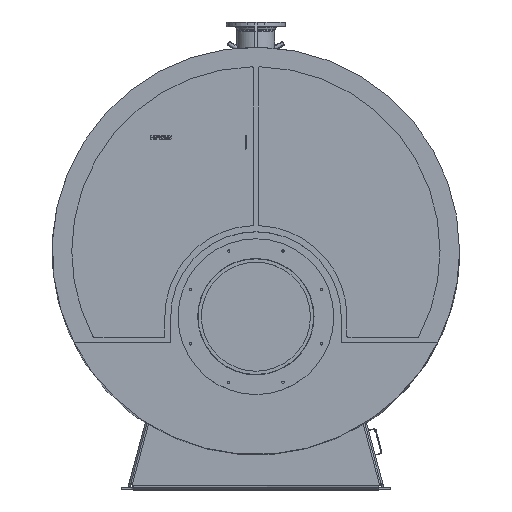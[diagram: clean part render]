
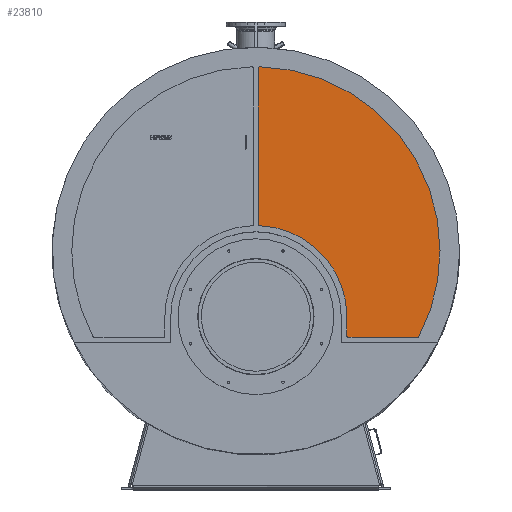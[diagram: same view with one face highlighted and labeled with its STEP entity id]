
A CAD part, top view. The second image highlights one B-rep face of the part: STEP entity #23810.
In plain terms, the highlighted planar face has unit normal (0, 0, 1).
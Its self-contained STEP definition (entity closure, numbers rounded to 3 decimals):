
#23563=CARTESIAN_POINT('',(15.,1057.792,313.));
#23564=VERTEX_POINT('',#23563);
#23565=CARTESIAN_POINT('',(15.,151.585,313.));
#23566=VERTEX_POINT('',#23565);
#23567=CARTESIAN_POINT('',(15.,1057.792,313.));
#23568=DIRECTION('',(-0.,-1.,0.));
#23569=VECTOR('',#23568,906.206);
#23570=LINE('',#23567,#23569);
#23571=EDGE_CURVE('',#23564,#23566,#23570,.T.);
#23594=CARTESIAN_POINT('',(20.763,145.59,313.));
#23595=VERTEX_POINT('',#23594);
#23596=CARTESIAN_POINT('',(526.,-380.,313.));
#23597=VERTEX_POINT('',#23596);
#23598=CARTESIAN_POINT('',(0.,-380.,313.));
#23599=DIRECTION('',(0.,0.,-1.));
#23600=DIRECTION('',(1.,0.,0.));
#23601=AXIS2_PLACEMENT_3D('',#23598,#23599,#23600);
#23602=CIRCLE('',#23601,526.);
#23603=EDGE_CURVE('',#23595,#23597,#23602,.T.);
#23627=CARTESIAN_POINT('',(526.,-493.,313.));
#23628=VERTEX_POINT('',#23627);
#23635=CARTESIAN_POINT('',(526.,-380.,313.));
#23636=DIRECTION('',(0.,-1.,0.));
#23637=VECTOR('',#23636,113.);
#23638=LINE('',#23635,#23637);
#23639=EDGE_CURVE('',#23597,#23628,#23638,.T.);
#23651=CARTESIAN_POINT('',(936.117,-499.,313.));
#23652=VERTEX_POINT('',#23651);
#23659=CARTESIAN_POINT('',(532.,-499.,313.));
#23660=VERTEX_POINT('',#23659);
#23661=CARTESIAN_POINT('',(532.,-499.,313.));
#23662=DIRECTION('',(1.,0.,-0.));
#23663=VECTOR('',#23662,404.117);
#23664=LINE('',#23661,#23663);
#23665=EDGE_CURVE('',#23660,#23652,#23664,.T.);
#23681=CARTESIAN_POINT('',(1064.,-0.,313.));
#23682=VERTEX_POINT('',#23681);
#23690=CARTESIAN_POINT('',(21.119,1063.79,313.));
#23691=VERTEX_POINT('',#23690);
#23698=CARTESIAN_POINT('',(0.,0.,313.));
#23699=DIRECTION('',(0.,0.,1.));
#23700=DIRECTION('',(1.,0.,-0.));
#23701=AXIS2_PLACEMENT_3D('',#23698,#23699,#23700);
#23702=CIRCLE('',#23701,1064.);
#23703=EDGE_CURVE('',#23682,#23691,#23702,.T.);
#23715=CARTESIAN_POINT('',(21.,1057.792,313.));
#23716=DIRECTION('',(-0.,-0.,1.));
#23717=DIRECTION('',(-1.,0.,0.));
#23718=AXIS2_PLACEMENT_3D('',#23715,#23716,#23717);
#23719=CIRCLE('',#23718,6.);
#23720=EDGE_CURVE('',#23691,#23564,#23719,.T.);
#23732=CARTESIAN_POINT('',(941.426,-495.796,313.));
#23733=VERTEX_POINT('',#23732);
#23740=CARTESIAN_POINT('',(936.117,-493.,313.));
#23741=DIRECTION('',(-0.,-0.,1.));
#23742=DIRECTION('',(-1.,0.,0.));
#23743=AXIS2_PLACEMENT_3D('',#23740,#23741,#23742);
#23744=CIRCLE('',#23743,6.);
#23745=EDGE_CURVE('',#23652,#23733,#23744,.T.);
#23758=CARTESIAN_POINT('',(532.,-493.,313.));
#23759=DIRECTION('',(-0.,-0.,1.));
#23760=DIRECTION('',(-1.,0.,0.));
#23761=AXIS2_PLACEMENT_3D('',#23758,#23759,#23760);
#23762=CIRCLE('',#23761,6.);
#23763=EDGE_CURVE('',#23628,#23660,#23762,.T.);
#23776=CARTESIAN_POINT('',(21.,151.585,313.));
#23777=DIRECTION('',(-0.,-0.,1.));
#23778=DIRECTION('',(-1.,0.,0.));
#23779=AXIS2_PLACEMENT_3D('',#23776,#23777,#23778);
#23780=CIRCLE('',#23779,6.);
#23781=EDGE_CURVE('',#23566,#23595,#23780,.T.);
#23787=CARTESIAN_POINT('',(871.069,594.284,313.));
#23788=DIRECTION('',(0.,0.,1.));
#23789=DIRECTION('',(1.,0.,0.));
#23790=AXIS2_PLACEMENT_3D('',#23787,#23788,#23789);
#23791=PLANE('',#23790);
#23792=CARTESIAN_POINT('',(0.,0.,313.));
#23793=DIRECTION('',(0.,0.,1.));
#23794=DIRECTION('',(1.,0.,-0.));
#23795=AXIS2_PLACEMENT_3D('',#23792,#23793,#23794);
#23796=CIRCLE('',#23795,1064.);
#23797=EDGE_CURVE('',#23733,#23682,#23796,.T.);
#23798=ORIENTED_EDGE('',*,*,#23797,.T.);
#23799=ORIENTED_EDGE('',*,*,#23703,.T.);
#23800=ORIENTED_EDGE('',*,*,#23720,.T.);
#23801=ORIENTED_EDGE('',*,*,#23571,.T.);
#23802=ORIENTED_EDGE('',*,*,#23781,.T.);
#23803=ORIENTED_EDGE('',*,*,#23603,.T.);
#23804=ORIENTED_EDGE('',*,*,#23639,.T.);
#23805=ORIENTED_EDGE('',*,*,#23763,.T.);
#23806=ORIENTED_EDGE('',*,*,#23665,.T.);
#23807=ORIENTED_EDGE('',*,*,#23745,.T.);
#23808=EDGE_LOOP('',(#23798,#23799,#23800,#23801,#23802,#23803,#23804,#23805,#23806,#23807));
#23809=FACE_BOUND('',#23808,.T.);
#23810=ADVANCED_FACE('',(#23809),#23791,.T.);
